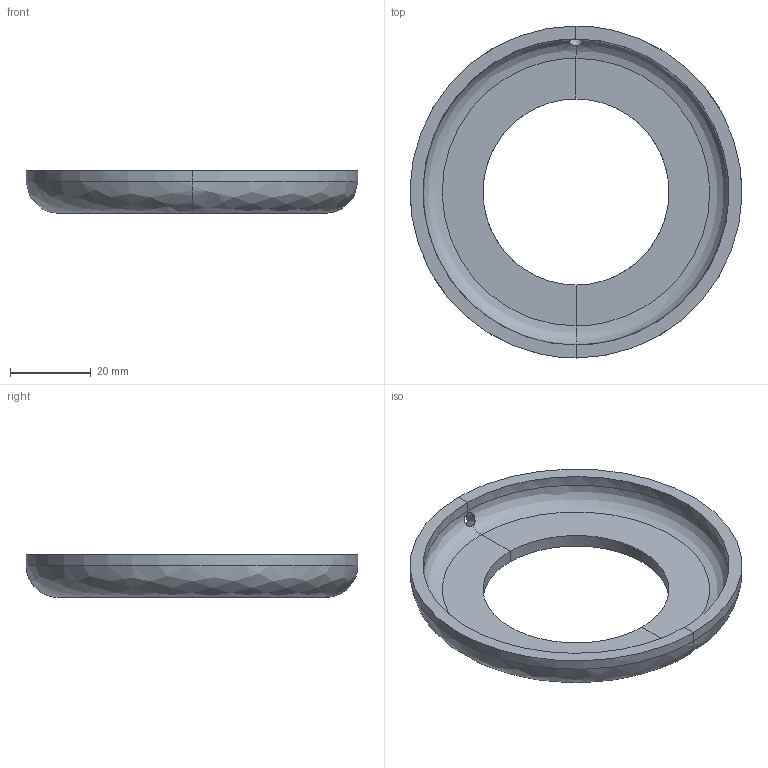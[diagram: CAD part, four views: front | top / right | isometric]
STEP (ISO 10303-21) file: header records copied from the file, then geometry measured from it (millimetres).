
FILE_DESCRIPTION (( 'STEP AP214' ), '1' );
FILE_NAME ('HP-100WJ-12.STEP', '2020-07-04T07:57:14', ( '' ), ( '' ), 'SwSTEP 2.0', 'SolidWorks 2010', '' );
FILE_SCHEMA (( 'AUTOMOTIVE_DESIGN' ));
Length unit declared in the file: millimetre
Products named in the file (1): HP-100WJ-12
Bounding box: 82.14 x 82.14 x 10.56 mm (x, y, z)
Volume: 15211.2 mm3; surface area: 10821.1 mm2
Topology: 1 solids, 1 shells, 18 faces, 44 edges, 24 vertices
Faces by surface type: bspline 18
Entity records: 2695 total; most frequent: CARTESIAN_POINT 2382, ORIENTED_EDGE 88, EDGE_CURVE 44, B_SPLINE_CURVE_WITH_KNOTS 44, VERTEX_POINT 24, FACE_OUTER_BOUND 18, B_SPLINE_SURFACE_WITH_KNOTS 18, ADVANCED_FACE 18
